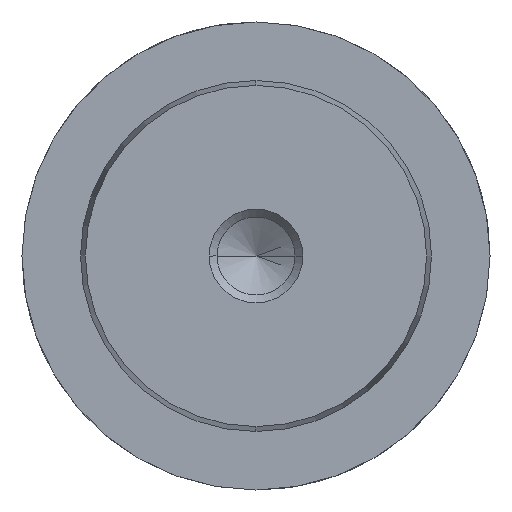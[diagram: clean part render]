
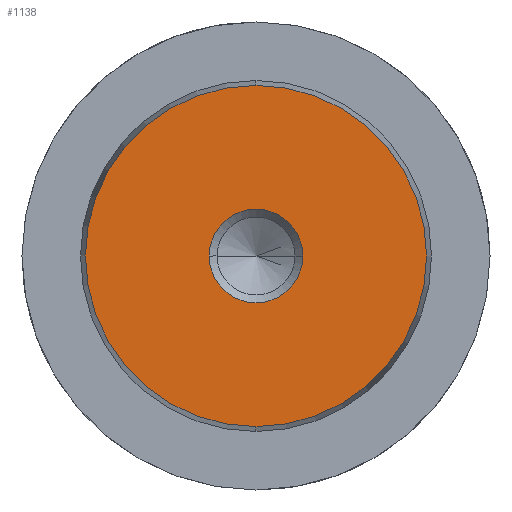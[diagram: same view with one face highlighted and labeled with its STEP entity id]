
A CAD part, left-side view. The second image highlights one B-rep face of the part: STEP entity #1138.
In plain terms, the highlighted planar face has unit normal (-1, 0, 0).
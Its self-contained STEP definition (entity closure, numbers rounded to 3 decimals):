
#1052=CARTESIAN_POINT('Vertex',(0.,0.,-14.578)) ;
#1055=CARTESIAN_POINT('Axis2P3D Location',(0.,0.,0.)) ;
#1059=CARTESIAN_POINT('Vertex',(0.,14.578,0.)) ;
#1062=CARTESIAN_POINT('Axis2P3D Location',(0.,0.,0.)) ;
#1066=CARTESIAN_POINT('Vertex',(0.,0.,14.578)) ;
#1088=CARTESIAN_POINT('Axis2P3D Location',(0.,0.,0.)) ;
#1092=CARTESIAN_POINT('Vertex',(0.,-14.578,0.)) ;
#1095=CARTESIAN_POINT('Axis2P3D Location',(0.,0.,0.)) ;
#1109=CARTESIAN_POINT('Axis2P3D Location',(0.,0.,0.)) ;
#1120=CARTESIAN_POINT('Axis2P3D Location',(0.,0.,0.)) ;
#1124=CARTESIAN_POINT('Vertex',(0.,4.,0.)) ;
#1126=CARTESIAN_POINT('Vertex',(0.,-4.,0.)) ;
#1129=CARTESIAN_POINT('Axis2P3D Location',(0.,0.,0.)) ;
#1056=DIRECTION('Axis2P3D Direction',(1.,-0.,0.)) ;
#1063=DIRECTION('Axis2P3D Direction',(1.,-0.,0.)) ;
#1089=DIRECTION('Axis2P3D Direction',(1.,0.,-0.)) ;
#1096=DIRECTION('Axis2P3D Direction',(1.,0.,-0.)) ;
#1110=DIRECTION('Axis2P3D Direction',(1.,0.,-0.)) ;
#1111=DIRECTION('Axis2P3D XDirection',(-0.,0.,-1.)) ;
#1121=DIRECTION('Axis2P3D Direction',(1.,0.,-0.)) ;
#1130=DIRECTION('Axis2P3D Direction',(1.,0.,-0.)) ;
#1057=AXIS2_PLACEMENT_3D('Circle Axis2P3D',#1055,#1056,$) ;
#1064=AXIS2_PLACEMENT_3D('Circle Axis2P3D',#1062,#1063,$) ;
#1090=AXIS2_PLACEMENT_3D('Circle Axis2P3D',#1088,#1089,$) ;
#1097=AXIS2_PLACEMENT_3D('Circle Axis2P3D',#1095,#1096,$) ;
#1112=AXIS2_PLACEMENT_3D('Plane Axis2P3D',#1109,#1110,#1111) ;
#1122=AXIS2_PLACEMENT_3D('Circle Axis2P3D',#1120,#1121,$) ;
#1131=AXIS2_PLACEMENT_3D('Circle Axis2P3D',#1129,#1130,$) ;
#1115=ORIENTED_EDGE('',*,*,#1061,.F.) ;
#1116=ORIENTED_EDGE('',*,*,#1099,.F.) ;
#1117=ORIENTED_EDGE('',*,*,#1094,.F.) ;
#1118=ORIENTED_EDGE('',*,*,#1068,.F.) ;
#1135=ORIENTED_EDGE('',*,*,#1128,.T.) ;
#1136=ORIENTED_EDGE('',*,*,#1133,.T.) ;
#1137=FACE_BOUND('',#1134,.T.) ;
#1138=ADVANCED_FACE('719-30x180',(#1119,#1137),#1113,.F.) ;
#1058=CIRCLE('generated circle',#1057,14.578) ;
#1065=CIRCLE('generated circle',#1064,14.578) ;
#1091=CIRCLE('generated circle',#1090,14.578) ;
#1098=CIRCLE('generated circle',#1097,14.578) ;
#1123=CIRCLE('generated circle',#1122,4.) ;
#1132=CIRCLE('generated circle',#1131,4.) ;
#1061=EDGE_CURVE('',#1053,#1060,#1058,.T.) ;
#1068=EDGE_CURVE('',#1060,#1067,#1065,.T.) ;
#1094=EDGE_CURVE('',#1067,#1093,#1091,.T.) ;
#1099=EDGE_CURVE('',#1093,#1053,#1098,.T.) ;
#1128=EDGE_CURVE('',#1125,#1127,#1123,.T.) ;
#1133=EDGE_CURVE('',#1127,#1125,#1132,.T.) ;
#1114=EDGE_LOOP('',(#1115,#1116,#1117,#1118)) ;
#1134=EDGE_LOOP('',(#1135,#1136)) ;
#1119=FACE_OUTER_BOUND('',#1114,.T.) ;
#1113=PLANE('Plane',#1112) ;
#1053=VERTEX_POINT('',#1052) ;
#1060=VERTEX_POINT('',#1059) ;
#1067=VERTEX_POINT('',#1066) ;
#1093=VERTEX_POINT('',#1092) ;
#1125=VERTEX_POINT('',#1124) ;
#1127=VERTEX_POINT('',#1126) ;
